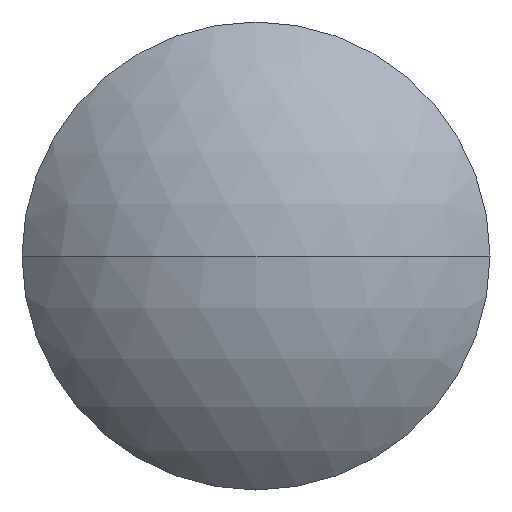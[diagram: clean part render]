
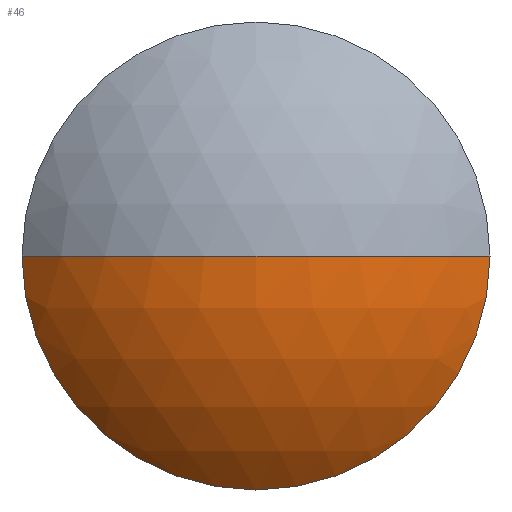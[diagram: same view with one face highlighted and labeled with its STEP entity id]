
A CAD part, left-side view. The second image highlights one B-rep face of the part: STEP entity #46.
In plain terms, the highlighted spherical face has radius 27.779 mm.
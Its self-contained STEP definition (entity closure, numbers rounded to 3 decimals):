
#9 = DIRECTION ( 'NONE',  ( 0., 0., 1. ) ) ;
#43 = DIRECTION ( 'NONE',  ( 0., 0., 1. ) ) ;
#46 = ADVANCED_FACE ( 'NONE', ( #309 ), #203, .T. ) ;
#48 = DIRECTION ( 'NONE',  ( 0., 0., -1. ) ) ;
#65 = DIRECTION ( 'NONE',  ( 1., 0., 0. ) ) ;
#69 = AXIS2_PLACEMENT_3D ( 'NONE', #186, #105, #350 ) ;
#73 = ORIENTED_EDGE ( 'NONE', *, *, #78, .T. ) ;
#74 = DIRECTION ( 'NONE',  ( 0., 1., 0. ) ) ;
#77 = CARTESIAN_POINT ( 'NONE',  ( -11., 0., 0. ) ) ;
#78 = EDGE_CURVE ( 'NONE', #95, #249, #134, .T. ) ;
#81 = AXIS2_PLACEMENT_3D ( 'NONE', #295, #9, #65 ) ;
#95 = VERTEX_POINT ( 'NONE', #290 ) ;
#105 = DIRECTION ( 'NONE',  ( -1., 0., 0. ) ) ;
#111 = CARTESIAN_POINT ( 'NONE',  ( -2.5, 20., 0. ) ) ;
#112 = DIRECTION ( 'NONE',  ( 0., 1., 0. ) ) ;
#118 = ORIENTED_EDGE ( 'NONE', *, *, #232, .T. ) ;
#121 = EDGE_LOOP ( 'NONE', ( #150, #73, #118, #143 ) ) ;
#134 = CIRCLE ( 'NONE', #310, 20. ) ;
#143 = ORIENTED_EDGE ( 'NONE', *, *, #340, .F. ) ;
#150 = ORIENTED_EDGE ( 'NONE', *, *, #255, .T. ) ;
#151 = CARTESIAN_POINT ( 'NONE',  ( -2.5, 0., 0. ) ) ;
#175 = AXIS2_PLACEMENT_3D ( 'NONE', #322, #348, #112 ) ;
#186 = CARTESIAN_POINT ( 'NONE',  ( -2.5, 0., 0. ) ) ;
#203 = SPHERICAL_SURFACE ( 'NONE', #206, 27.779 ) ;
#206 = AXIS2_PLACEMENT_3D ( 'NONE', #284, #48, #74 ) ;
#218 = CIRCLE ( 'NONE', #69, 20. ) ;
#219 = CIRCLE ( 'NONE', #81, 27.779 ) ;
#226 = VERTEX_POINT ( 'NONE', #111 ) ;
#232 = EDGE_CURVE ( 'NONE', #249, #336, #326, .T. ) ;
#244 = CARTESIAN_POINT ( 'NONE',  ( -2.5, -20., 0. ) ) ;
#249 = VERTEX_POINT ( 'NONE', #244 ) ;
#255 = EDGE_CURVE ( 'NONE', #226, #95, #218, .T. ) ;
#284 = CARTESIAN_POINT ( 'NONE',  ( 16.779, 0., 0. ) ) ;
#290 = CARTESIAN_POINT ( 'NONE',  ( -2.5, 0., -20. ) ) ;
#295 = CARTESIAN_POINT ( 'NONE',  ( 16.779, 0., 0. ) ) ;
#309 = FACE_OUTER_BOUND ( 'NONE', #121, .T. ) ;
#310 = AXIS2_PLACEMENT_3D ( 'NONE', #151, #313, #43 ) ;
#313 = DIRECTION ( 'NONE',  ( -1., 0., 0. ) ) ;
#322 = CARTESIAN_POINT ( 'NONE',  ( 16.779, 0., 0. ) ) ;
#326 = CIRCLE ( 'NONE', #175, 27.779 ) ;
#336 = VERTEX_POINT ( 'NONE', #77 ) ;
#340 = EDGE_CURVE ( 'NONE', #226, #336, #219, .T. ) ;
#348 = DIRECTION ( 'NONE',  ( 0., 0., -1. ) ) ;
#350 = DIRECTION ( 'NONE',  ( 0., 0., 1. ) ) ;
